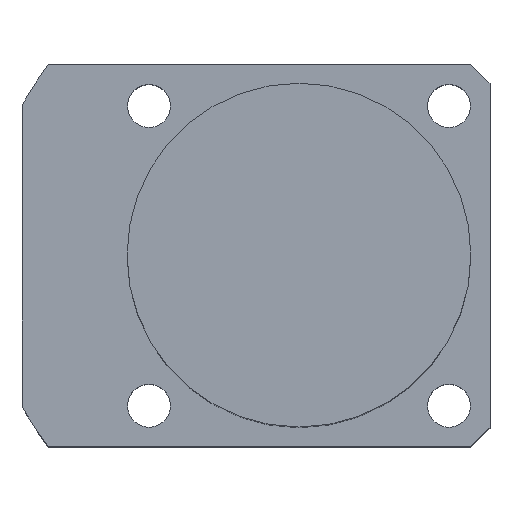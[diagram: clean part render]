
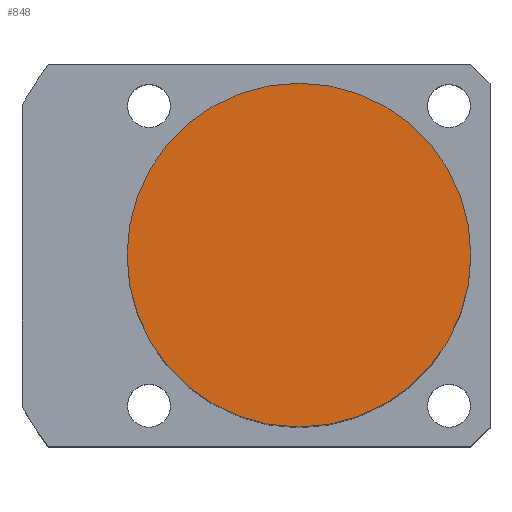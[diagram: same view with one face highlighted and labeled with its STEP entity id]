
A CAD part, top view. The second image highlights one B-rep face of the part: STEP entity #848.
In plain terms, the highlighted planar face has unit normal (0, 0, 1).
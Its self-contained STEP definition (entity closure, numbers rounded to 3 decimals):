
#51 = PLANE ( 'NONE',  #997 ) ;
#188 = CIRCLE ( 'NONE', #582, 18. ) ;
#351 = DIRECTION ( 'NONE',  ( 0., 0., 1. ) ) ;
#366 = DIRECTION ( 'NONE',  ( 0., 0., 1. ) ) ;
#398 = VERTEX_POINT ( 'NONE', #552 ) ;
#493 = DIRECTION ( 'NONE',  ( 1., 0., 0. ) ) ;
#536 = CARTESIAN_POINT ( 'NONE',  ( 0., 0., 53.5 ) ) ;
#552 = CARTESIAN_POINT ( 'NONE',  ( 18., 0., 53.5 ) ) ;
#582 = AXIS2_PLACEMENT_3D ( 'NONE', #536, #366, #1384 ) ;
#615 = EDGE_CURVE ( 'NONE', #398, #1913, #188, .T. ) ;
#631 = DIRECTION ( 'NONE',  ( 0., 0., 1. ) ) ;
#636 = FACE_OUTER_BOUND ( 'NONE', #1691, .T. ) ;
#697 = ORIENTED_EDGE ( 'NONE', *, *, #615, .T. ) ;
#792 = ORIENTED_EDGE ( 'NONE', *, *, #942, .T. ) ;
#848 = ADVANCED_FACE ( 'NONE', ( #636 ), #51, .T. ) ;
#942 = EDGE_CURVE ( 'NONE', #1913, #398, #1001, .T. ) ;
#997 = AXIS2_PLACEMENT_3D ( 'NONE', #1213, #351, #493 ) ;
#1001 = CIRCLE ( 'NONE', #1382, 18. ) ;
#1050 = CARTESIAN_POINT ( 'NONE',  ( -18., 0., 53.5 ) ) ;
#1213 = CARTESIAN_POINT ( 'NONE',  ( 0., 0., 53.5 ) ) ;
#1382 = AXIS2_PLACEMENT_3D ( 'NONE', #1765, #631, #1855 ) ;
#1384 = DIRECTION ( 'NONE',  ( 1., 0., 0. ) ) ;
#1691 = EDGE_LOOP ( 'NONE', ( #792, #697 ) ) ;
#1765 = CARTESIAN_POINT ( 'NONE',  ( 0., 0., 53.5 ) ) ;
#1855 = DIRECTION ( 'NONE',  ( 1., 0., 0. ) ) ;
#1913 = VERTEX_POINT ( 'NONE', #1050 ) ;
